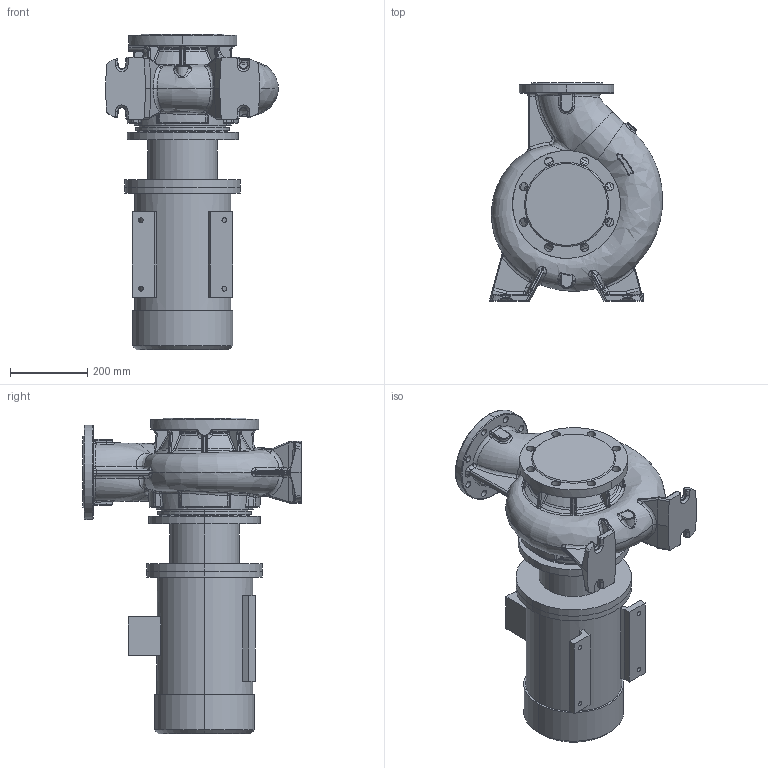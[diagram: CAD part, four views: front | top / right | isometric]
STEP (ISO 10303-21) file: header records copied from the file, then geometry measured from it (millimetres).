
FILE_DESCRIPTION (( 'STEP AP203' ), '1' );
FILE_NAME ('KRM 150-125-200-4-7,5.STEP', '2026-09-21T08:37:07', ( '' ), ( '' ), 'SwSTEP 2.0', 'SolidWorks 2016', '' );
FILE_SCHEMA (( 'CONFIG_CONTROL_DESIGN' ));
Products named in the file (1): KRM 150-125-200-4-7,5
Bounding box: 448.69 x 565 x 817.5 mm (x, y, z)
Volume: 55099909.4 mm3; surface area: 1894033.4 mm2
Topology: 4 solids, 4 shells, 1150 faces, 2793 edges, 1653 vertices
Faces by surface type: bspline 499, cylinder 265, plane 175, torus 93, cone 67, sphere 51
Entity records: 64943 total; most frequent: CARTESIAN_POINT 41682, ORIENTED_EDGE 5550, DIRECTION 4029, EDGE_CURVE 2775, AXIS2_PLACEMENT_3D 1739, VERTEX_POINT 1653, EDGE_LOOP 1210, ADVANCED_FACE 1150
